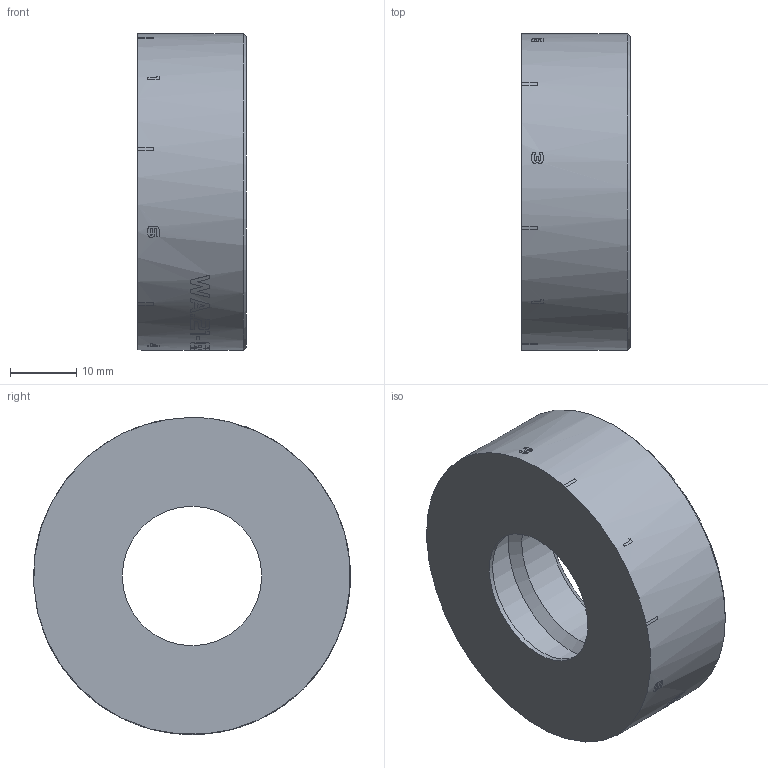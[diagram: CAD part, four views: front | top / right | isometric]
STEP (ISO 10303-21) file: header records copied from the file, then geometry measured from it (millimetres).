
FILE_DESCRIPTION(('STEP AP214'), '1');
FILE_NAME('WA.21-G34-D48-SS6L_1', '2025-02-19T11:36:04', ('user'), (''), 'ASCON STEP Converter 1.6', 'ASCON Math Kernel', '');
FILE_SCHEMA(('AUTOMOTIVE_DESIGN { 1 0 10303 214 3 1 1}'));
Length unit declared in the file: millimetre
Bounding box: 16.5 x 48 x 48 mm (x, y, z)
Volume: 21461.9 mm3; surface area: 6752.8 mm2
Topology: 1 solids, 1 shells, 367 faces, 989 edges, 658 vertices
Faces by surface type: plane 189, bspline 160, cylinder 14, cone 4
Full cylindrical faces by diameter (mm): 21.1 x1, 24.118 x1, 24.6 x1, 27 x1, 30 x1, 48 x1
Entity records: 19803 total; most frequent: CARTESIAN_POINT 8851, ORIENTED_EDGE 1958, DIRECTION 1092, EDGE_CURVE 979, VERTEX_POINT 658, B_SPLINE_CURVE_WITH_KNOTS 441, EDGE_LOOP 413, LINE 400
